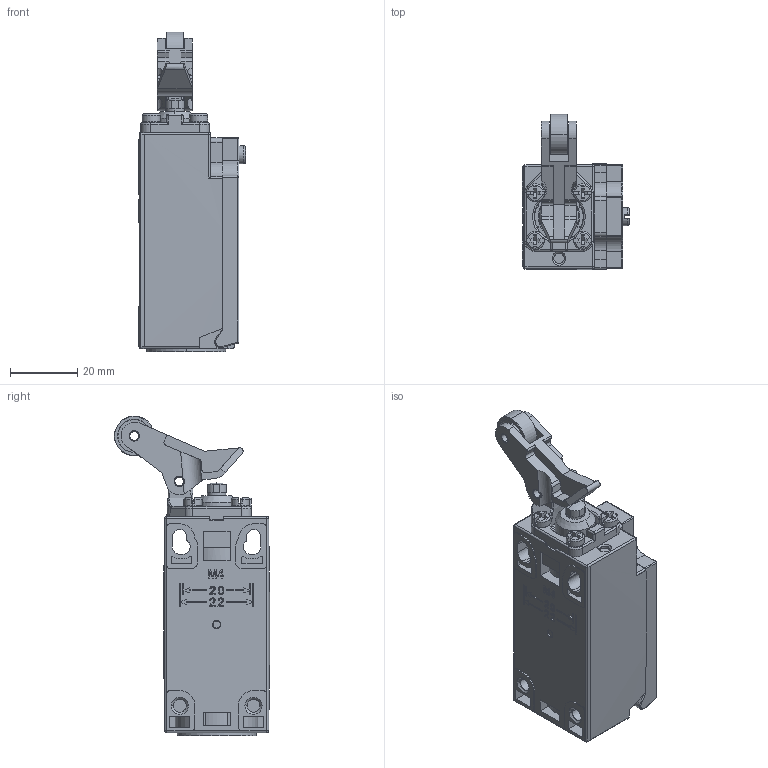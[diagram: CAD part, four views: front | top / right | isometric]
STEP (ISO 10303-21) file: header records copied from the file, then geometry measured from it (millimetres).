
FILE_DESCRIPTION(/* description */ (''),/* implementation_level */ '2;1');
FILE_NAME(/* name */ 'C4N-4172.stp',/* time_stamp */ '2022-11-21T15:52:51+08:00',/* author */ (''),/* organization */ (''),/* preprocessor_version */ 'ST-DEVELOPER v16.7',/* originating_system */ 'SIEMENS PLM Software NX 12.0',/* authorisation */ '');
FILE_SCHEMA (('AUTOMOTIVE_DESIGN { 1 0 10303 214 3 1 1 1 }'));
Products named in the file (1): Admi0E582F21o9yw
Bounding box: 32 x 46.11 x 94.99 mm (x, y, z)
Volume: 28810.4 mm3; surface area: 30111.1 mm2
Topology: 16 solids, 16 shells, 1441 faces, 3851 edges, 2506 vertices
Faces by surface type: plane 722, cylinder 346, bspline 140, cone 115, torus 58, sphere 34, extrusion 26
Entity records: 58741 total; most frequent: CARTESIAN_POINT 19412, ORIENTED_EDGE 7686, DIRECTION 6836, EDGE_CURVE 3843, VERTEX_POINT 2506, AXIS2_PLACEMENT_3D 2345, VECTOR 2146, LINE 2120
